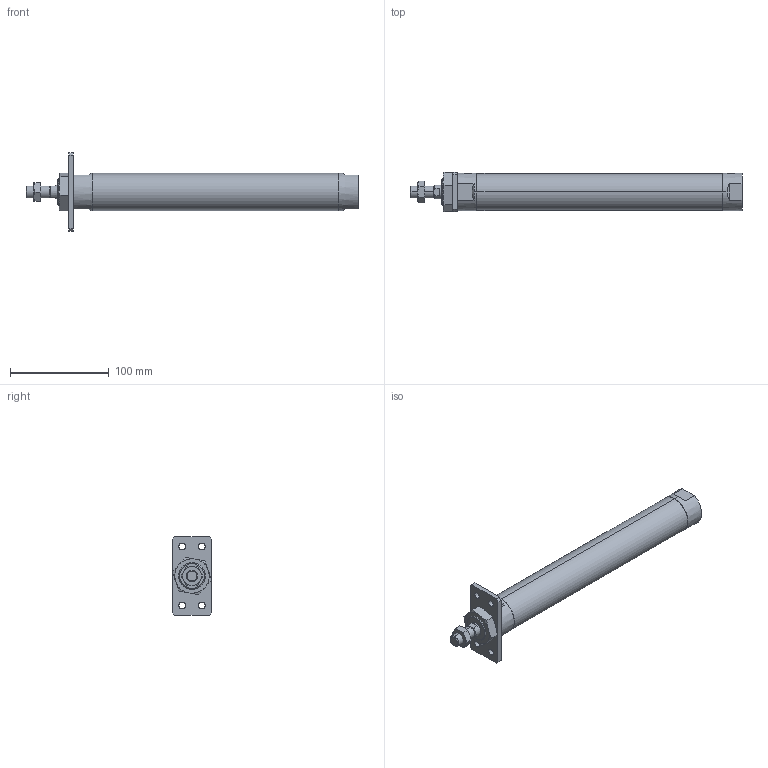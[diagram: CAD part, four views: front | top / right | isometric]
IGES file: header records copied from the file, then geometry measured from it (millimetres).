
Start section: SolidWorks IGES file using analytic representation for surfaces
Global section: file name: C:\Users\Toshiba\Desktop\JGND2-32-200-A.IGS; native system: SolidWorks 2014; preprocessor: SolidWorks 2014; author: Toshiba; date: 160804.105549; units: millimetre
Bounding box: 337 x 40 x 80 mm (x, y, z)
Surface area: 51100 mm2 (no closed solid volume)
Topology: 0 solids, 0 shells, 109 faces, 1980 edges, 1976 vertices
Faces by surface type: bspline 66, revolution 43
